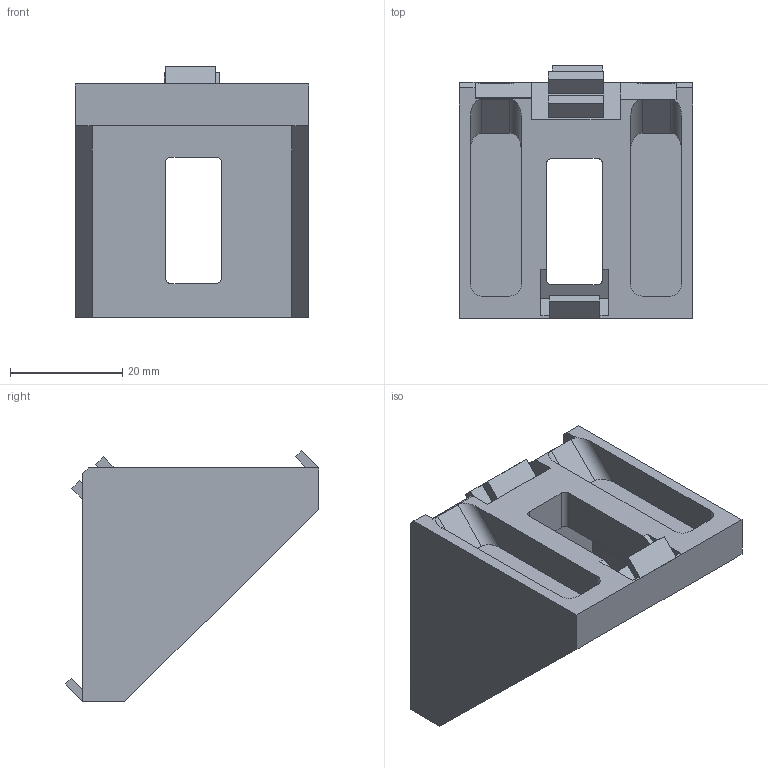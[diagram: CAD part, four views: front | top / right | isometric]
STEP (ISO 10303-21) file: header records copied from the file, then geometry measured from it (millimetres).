
FILE_DESCRIPTION (( 'STEP AP203' ), '1' );
FILE_NAME ('1036.STEP', '2016-03-22T14:56:52', ( '' ), ( '' ), 'SwSTEP 2.0', 'SolidWorks 2014', '' );
FILE_SCHEMA (( 'CONFIG_CONTROL_DESIGN' ));
Length unit declared in the file: millimetre
Products named in the file (1): 1036
Bounding box: 41.5 x 45.07 x 44.57 mm (x, y, z)
Volume: 16510.7 mm3; surface area: 12445.2 mm2
Topology: 1 solids, 1 shells, 110 faces, 311 edges, 206 vertices
Faces by surface type: plane 86, cylinder 24
Entity records: 3602 total; most frequent: CARTESIAN_POINT 688, ORIENTED_EDGE 622, DIRECTION 547, EDGE_CURVE 311, LINE 257, VECTOR 257, VERTEX_POINT 206, AXIS2_PLACEMENT_3D 145
